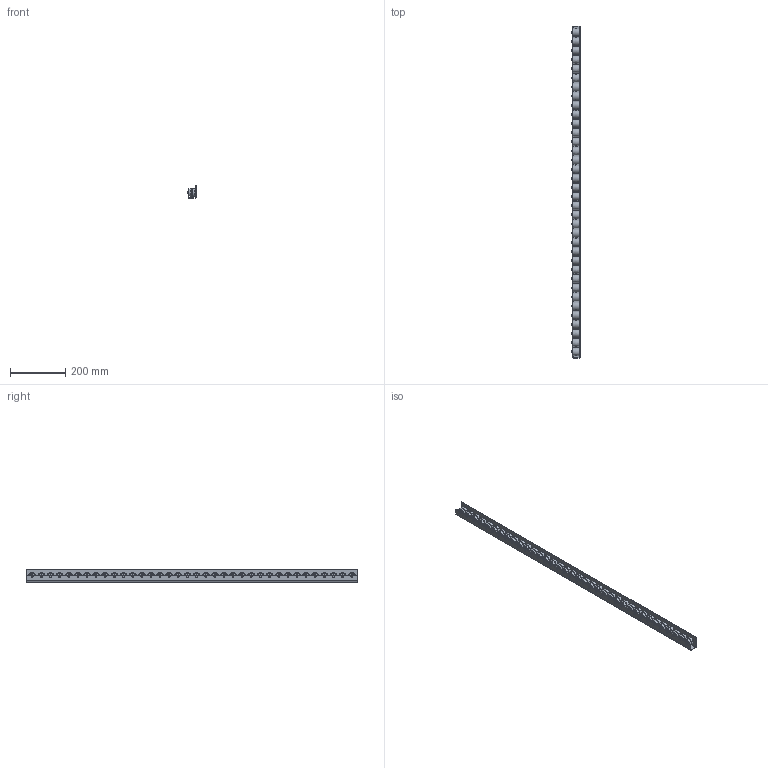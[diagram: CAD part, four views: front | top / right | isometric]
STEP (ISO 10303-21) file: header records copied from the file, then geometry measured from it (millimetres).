
FILE_DESCRIPTION(/* description */ ('Unknown'),/* implementation_level */ '2;1');
FILE_NAME(/* name */ '1568-01-00 Listwa T100L 1200 symetryczna',/* time_stamp */ '2025-01-17T08:12:36+01:00',/* author */ ('Unknown'),/* organization */ ('Unknown'),/* preprocessor_version */ 'ST-DEVELOPER v20',/* originating_system */ 'Solid Edge',/* authorisation */ 'Unknown');
FILE_SCHEMA (('AUTOMOTIVE_DESIGN {1 0 10303 214 3 1 1}'));
Length unit declared in the file: millimetre
Products named in the file (4): 1568-01-00 Listwa T100L 1200 symetryczna; Ceownik T100L_33-2 1200 symetryczny; Rolka; Nit-2.
Assembly tree (73 placements, depth 2):
  1568-01-00 Listwa T100L 1200 symetryczna
    Ceownik T100L_33-2 1200 symetryczny
    Rolka  x36
    Nit-2.  x36
Bounding box: 30 x 1200 x 44 mm (x, y, z)
Volume: 515888.7 mm3; surface area: 487461.3 mm2
Topology: 73 solids, 73 shells, 2553 faces, 6808 edges, 4545 vertices
Faces by surface type: plane 2026, cylinder 347, torus 108, cone 72
Full cylindrical faces by diameter (mm): 2 x36, 4.2 x19, 5 x36, 5.2 x72, 5.3 x36, 6 x72, 11.5 x72
Entity records: 6215 total; most frequent: DIRECTION 1104, CARTESIAN_POINT 1017, ORIENTED_EDGE 758, AXIS2_PLACEMENT_3D 502, EDGE_LOOP 464, FACE_BOUND 464, EDGE_CURVE 379, VERTEX_POINT 319
